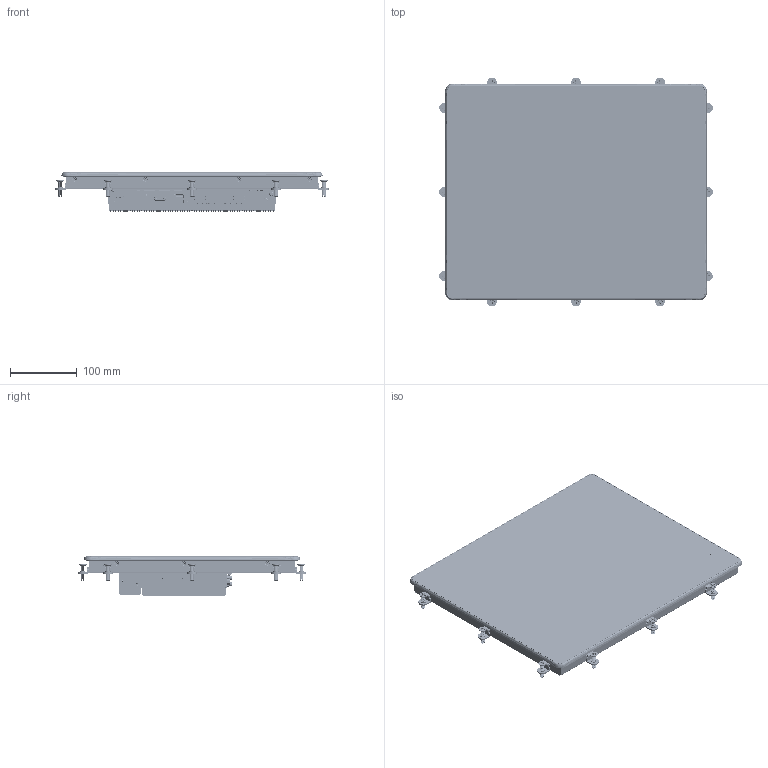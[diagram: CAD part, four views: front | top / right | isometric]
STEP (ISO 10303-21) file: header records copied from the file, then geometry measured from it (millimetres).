
FILE_DESCRIPTION((''),'2;1');
FILE_NAME('NP2A-170','2026-06-02T13:53:43',('gijyu181'),(''),'CREO PARAMETRIC BY PTC INC, 2018050','CREO PARAMETRIC BY PTC INC, 2018050','');
FILE_SCHEMA(('CONFIG_CONTROL_DESIGN','SHAPE_APPEARANCE_LAYERS_GROUPS'));
Products named in the file (1): NP2A-170
Bounding box: 410.1 x 342.6 x 58.5 mm (x, y, z)
Volume: 2157961.1 mm3; surface area: 1192052.8 mm2
Topology: 38 solids, 100 shells, 26915 faces, 78328 edges, 51584 vertices
Faces by surface type: plane 17617, cylinder 6341, extrusion 1557, bspline 579, cone 475, torus 229, sphere 101, revolution 16
Entity records: 1114624 total; most frequent: CARTESIAN_POINT 284945, ORIENTED_EDGE 155705, DIRECTION 134990, EDGE_CURVE 78264, VECTOR 60682, LINE 59125, VERTEX_POINT 51585, AXIS2_PLACEMENT_3D 37146
